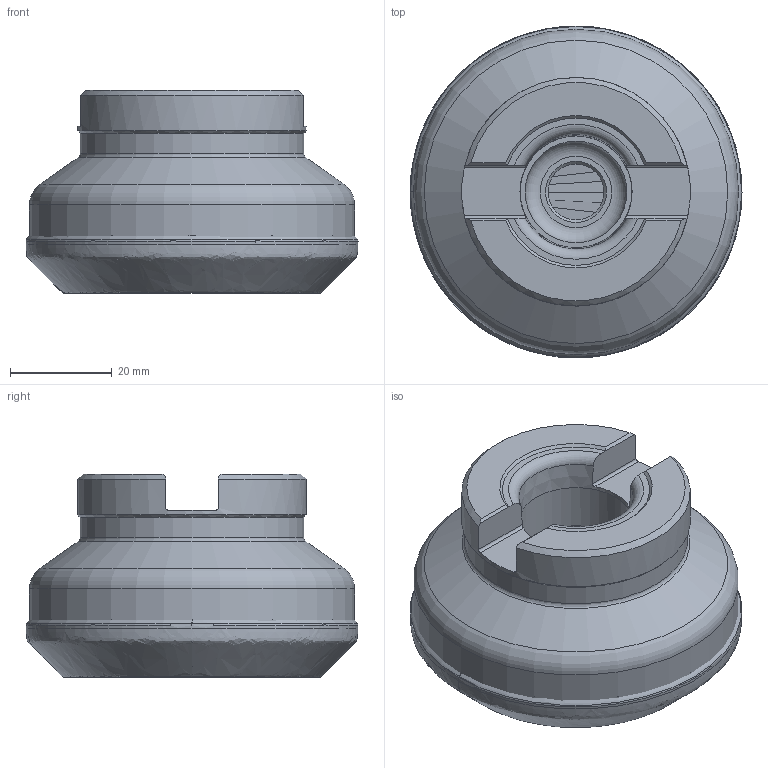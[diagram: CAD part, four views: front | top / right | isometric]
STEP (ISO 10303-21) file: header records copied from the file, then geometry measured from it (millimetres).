
FILE_DESCRIPTION(/* description */ (''),/* implementation_level */ '2;1');
FILE_NAME(/* name */ '637721702600612423.stp',/* time_stamp */ '2021-11-10T19:44:33+08:00',/* author */ (''),/* organization */ (''),/* preprocessor_version */ 'ST-DEVELOPER v16.7',/* originating_system */ 'SIEMENS PLM Software NX 12.0',/* authorisation */ '');
FILE_SCHEMA (('AUTOMOTIVE_DESIGN { 1 0 10303 214 3 1 1 1 }'));
Length unit declared in the file: millimetre
Products named in the file (2): 637721702571520349_SNEG1506ANR-GM; 637721702553547289_FMA11-050-A22-SN15-04C_S
Assembly tree (4 placements, depth 2):
  637721702553547289_FMA11-050-A22-SN15-04C_S
    637721702571520349_SNEG1506ANR-GM  x4
Bounding box: 65.34 x 65.33 x 40.11 mm (x, y, z)
Surface area: 64498 mm2
Topology: 2 solids, 2 shells, 64 faces, 155 edges, 97 vertices
Faces by surface type: plane 20, torus 13, cone 12, cylinder 11, revolution 8
Full cylindrical faces by diameter (mm): 11 x1, 22 x1, 24 x1, 30.391 x1, 44 x1, 45 x1, 64 x1
Entity records: 2494 total; most frequent: CARTESIAN_POINT 1148, DIRECTION 254, ORIENTED_EDGE 212, AXIS2_PLACEMENT_3D 111, EDGE_CURVE 106, EDGE_LOOP 102, VERTEX_POINT 82, FACE_BOUND 78
